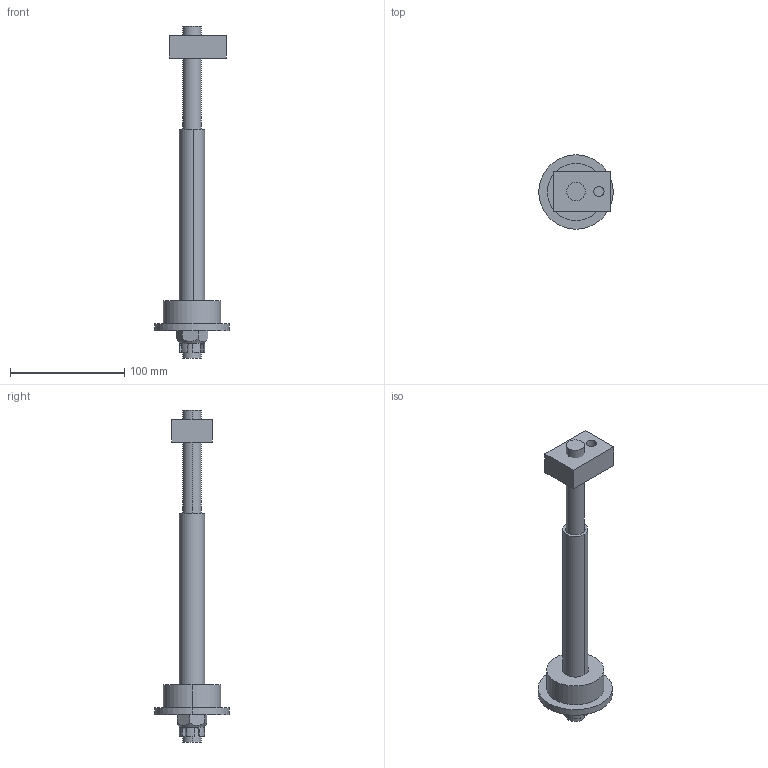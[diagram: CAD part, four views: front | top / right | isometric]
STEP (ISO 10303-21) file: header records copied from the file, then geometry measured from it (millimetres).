
FILE_DESCRIPTION(('CATIA V5 STEP Exchange'),'2;1');
FILE_NAME('C:\Users\Utente\Desktop\IO LAVORO\3D X SITO CF\X 3D SITO CF 27-09-2020\740T\740T-16.stp','2020-10-27T18:53:26+00:00',('none'),('none'),'CATIA Version 5 Release 20 GA (IN-10)','CATIA V5 STEP AP203','none');
FILE_SCHEMA(('CONFIG_CONTROL_DESIGN'));
Length unit declared in the file: millimetre
Products named in the file (1): 740T-16
Assembly tree (6 placements, depth 2):
  740T-16
    #58
    #373
    #482
    #661
    #2328
    #2507
Bounding box: 65 x 65 x 290 mm (x, y, z)
Volume: 169128.3 mm3; surface area: 62260.3 mm2
Topology: 6 solids, 6 shells, 75 faces, 184 edges, 120 vertices
Faces by surface type: plane 39, cylinder 34, cone 2
Entity records: 2663 total; most frequent: CARTESIAN_POINT 779, ORIENTED_EDGE 368, DIRECTION 322, EDGE_CURVE 184, AXIS2_PLACEMENT_3D 139, VERTEX_POINT 120, VECTOR 96, LINE 96
